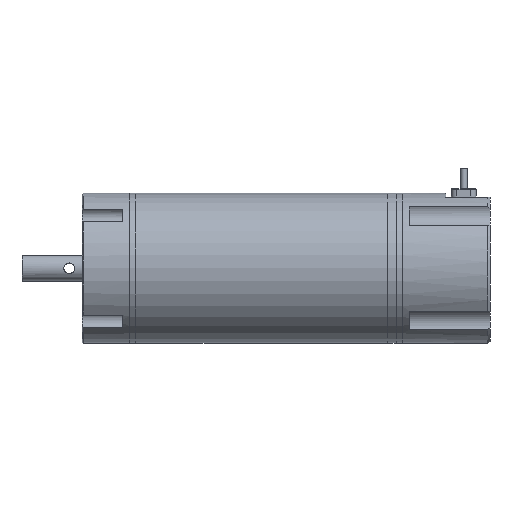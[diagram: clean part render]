
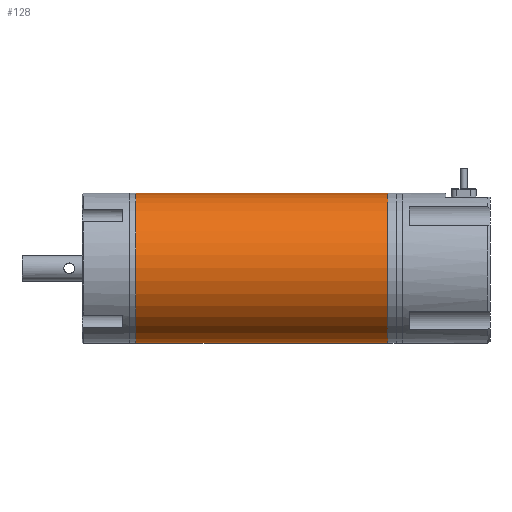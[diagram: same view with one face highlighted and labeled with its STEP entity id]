
A CAD part, front view. The second image highlights one B-rep face of the part: STEP entity #128.
In plain terms, the highlighted cylindrical face has radius 34.925 mm (diameter 69.85 mm), a partial arc.
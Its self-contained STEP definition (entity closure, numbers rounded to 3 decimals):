
#128 = ADVANCED_FACE ( 'NONE', ( #863 ), #10557, .T. ) ;
#222 = EDGE_CURVE ( 'NONE', #11048, #1988, #11308, .T. ) ;
#265 = CARTESIAN_POINT ( 'NONE',  ( 0., 0., 0. ) ) ;
#352 = VERTEX_POINT ( 'NONE', #2313 ) ;
#863 = FACE_OUTER_BOUND ( 'NONE', #14287, .T. ) ;
#904 = DIRECTION ( 'NONE',  ( -1., 0., 0. ) ) ;
#1988 = VERTEX_POINT ( 'NONE', #5687 ) ;
#2313 = CARTESIAN_POINT ( 'NONE',  ( 0., 0., -34.925 ) ) ;
#2524 = CARTESIAN_POINT ( 'NONE',  ( 0., 0., -34.925 ) ) ;
#3043 = ORIENTED_EDGE ( 'NONE', *, *, #222, .F. ) ;
#3500 = CARTESIAN_POINT ( 'NONE',  ( 0., 0., 34.925 ) ) ;
#4508 = DIRECTION ( 'NONE',  ( 0., 0., 1. ) ) ;
#5657 = CARTESIAN_POINT ( 'NONE',  ( 0., 0., 34.925 ) ) ;
#5687 = CARTESIAN_POINT ( 'NONE',  ( -117.3, 0., 34.925 ) ) ;
#6118 = VERTEX_POINT ( 'NONE', #3500 ) ;
#6176 = LINE ( 'NONE', #2524, #7702 ) ;
#6179 = LINE ( 'NONE', #5657, #10553 ) ;
#6206 = DIRECTION ( 'NONE',  ( -1., 0., 0. ) ) ;
#6291 = AXIS2_PLACEMENT_3D ( 'NONE', #265, #7522, #14749 ) ;
#6520 = DIRECTION ( 'NONE',  ( -1., 0., 0. ) ) ;
#6786 = DIRECTION ( 'NONE',  ( -1., 0., 0. ) ) ;
#7522 = DIRECTION ( 'NONE',  ( -1., 0., 0. ) ) ;
#7702 = VECTOR ( 'NONE', #6206, 1000. ) ;
#8419 = ORIENTED_EDGE ( 'NONE', *, *, #9666, .F. ) ;
#9666 = EDGE_CURVE ( 'NONE', #352, #11048, #6176, .T. ) ;
#10387 = ORIENTED_EDGE ( 'NONE', *, *, #14124, .T. ) ;
#10494 = CARTESIAN_POINT ( 'NONE',  ( -117.3, 0., -34.925 ) ) ;
#10524 = CIRCLE ( 'NONE', #6291, 34.925 ) ;
#10553 = VECTOR ( 'NONE', #6520, 1000. ) ;
#10557 = CYLINDRICAL_SURFACE ( 'NONE', #10961, 34.925 ) ;
#10961 = AXIS2_PLACEMENT_3D ( 'NONE', #11785, #904, #4508 ) ;
#11048 = VERTEX_POINT ( 'NONE', #10494 ) ;
#11308 = CIRCLE ( 'NONE', #14684, 34.925 ) ;
#11785 = CARTESIAN_POINT ( 'NONE',  ( 0., 0., 0. ) ) ;
#12861 = EDGE_CURVE ( 'NONE', #6118, #1988, #6179, .T. ) ;
#13994 = ORIENTED_EDGE ( 'NONE', *, *, #12861, .T. ) ;
#14034 = CARTESIAN_POINT ( 'NONE',  ( -117.3, 0., 0. ) ) ;
#14124 = EDGE_CURVE ( 'NONE', #352, #6118, #10524, .T. ) ;
#14287 = EDGE_LOOP ( 'NONE', ( #8419, #10387, #13994, #3043 ) ) ;
#14684 = AXIS2_PLACEMENT_3D ( 'NONE', #14034, #6786, #15240 ) ;
#14749 = DIRECTION ( 'NONE',  ( 0., 0., 1. ) ) ;
#15240 = DIRECTION ( 'NONE',  ( 0., 0., 1. ) ) ;
